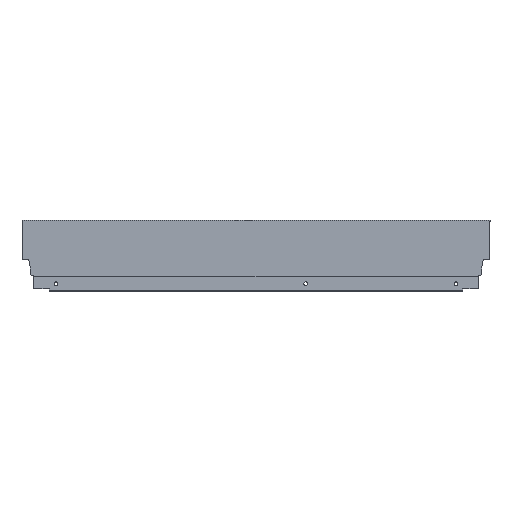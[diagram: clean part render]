
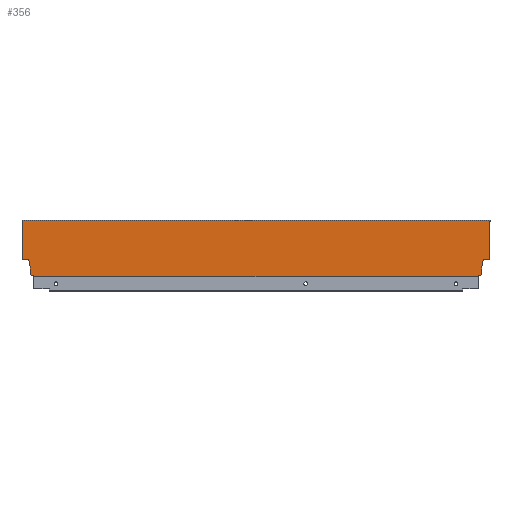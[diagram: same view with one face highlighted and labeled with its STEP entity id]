
A CAD part, top view. The second image highlights one B-rep face of the part: STEP entity #356.
In plain terms, the highlighted planar face has unit normal (0, 0, 1).
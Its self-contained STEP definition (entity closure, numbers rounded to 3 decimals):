
#1 = VERTEX_POINT ( 'NONE', #5 ) ;
#2 = CARTESIAN_POINT ( 'NONE',  ( -563., 66.5, 7.5 ) ) ;
#5 = CARTESIAN_POINT ( 'NONE',  ( -13.004, 0., 7.5 ) ) ;
#7 = VERTEX_POINT ( 'NONE', #2 ) ;
#10 = VERTEX_POINT ( 'NONE', #140 ) ;
#15 = VERTEX_POINT ( 'NONE', #94 ) ;
#17 = VERTEX_POINT ( 'NONE', #1678 ) ;
#18 = VERTEX_POINT ( 'NONE', #92 ) ;
#19 = VERTEX_POINT ( 'NONE', #587 ) ;
#21 = VERTEX_POINT ( 'NONE', #591 ) ;
#46 = AXIS2_PLACEMENT_3D ( 'NONE', #999, #1005, #1006 ) ;
#92 = CARTESIAN_POINT ( 'NONE',  ( -8.9, 10.765, 7.5 ) ) ;
#94 = CARTESIAN_POINT ( 'NONE',  ( -549.996, 0., 7.5 ) ) ;
#121 = VERTEX_POINT ( 'NONE', #636 ) ;
#122 = VERTEX_POINT ( 'NONE', #638 ) ;
#135 = VERTEX_POINT ( 'NONE', #652 ) ;
#140 = CARTESIAN_POINT ( 'NONE',  ( -554.1, 10.765, 7.5 ) ) ;
#191 = EDGE_CURVE ( 'NONE', #121, #1450, #626, .T. ) ;
#216 = EDGE_CURVE ( 'NONE', #15, #1, #563, .T. ) ;
#217 = EDGE_CURVE ( 'NONE', #10, #1449, #559, .T. ) ;
#218 = EDGE_CURVE ( 'NONE', #1428, #7, #562, .T. ) ;
#220 = EDGE_CURVE ( 'NONE', #1449, #19, #551, .T. ) ;
#221 = EDGE_CURVE ( 'NONE', #1428, #122, #566, .T. ) ;
#222 = EDGE_CURVE ( 'NONE', #122, #17, #556, .T. ) ;
#223 = EDGE_CURVE ( 'NONE', #7, #19, #554, .T. ) ;
#224 = EDGE_CURVE ( 'NONE', #1460, #10, #543, .T. ) ;
#225 = EDGE_CURVE ( 'NONE', #1434, #1460, #548, .T. ) ;
#226 = EDGE_CURVE ( 'NONE', #15, #1434, #546, .T. ) ;
#227 = EDGE_CURVE ( 'NONE', #18, #21, #537, .T. ) ;
#228 = EDGE_CURVE ( 'NONE', #1447, #1, #544, .T. ) ;
#229 = EDGE_CURVE ( 'NONE', #1436, #18, #533, .T. ) ;
#230 = EDGE_CURVE ( 'NONE', #21, #1447, #540, .T. ) ;
#231 = EDGE_CURVE ( 'NONE', #1450, #1436, #538, .T. ) ;
#233 = EDGE_CURVE ( 'NONE', #135, #121, #530, .T. ) ;
#235 = EDGE_CURVE ( 'NONE', #17, #135, #528, .T. ) ;
#356 = ADVANCED_FACE ( 'NONE', ( #1603 ), #996, .T. ) ;
#399 = VECTOR ( 'NONE', #679, 1000. ) ;
#521 = VECTOR ( 'NONE', #775, 1000. ) ;
#525 = VECTOR ( 'NONE', #771, 1000. ) ;
#528 = LINE ( 'NONE', #770, #521 ) ;
#529 = VECTOR ( 'NONE', #767, 1000. ) ;
#530 = LINE ( 'NONE', #768, #525 ) ;
#531 = VECTOR ( 'NONE', #765, 1000. ) ;
#532 = VECTOR ( 'NONE', #763, 1000. ) ;
#533 = LINE ( 'NONE', #762, #532 ) ;
#535 = VECTOR ( 'NONE', #761, 1000. ) ;
#536 = VECTOR ( 'NONE', #759, 1000. ) ;
#537 = LINE ( 'NONE', #758, #536 ) ;
#538 = LINE ( 'NONE', #764, #529 ) ;
#539 = VECTOR ( 'NONE', #757, 1000. ) ;
#540 = LINE ( 'NONE', #760, #531 ) ;
#541 = VECTOR ( 'NONE', #755, 1000. ) ;
#542 = VECTOR ( 'NONE', #753, 1000. ) ;
#543 = LINE ( 'NONE', #752, #542 ) ;
#544 = LINE ( 'NONE', #756, #535 ) ;
#545 = VECTOR ( 'NONE', #751, 1000. ) ;
#546 = LINE ( 'NONE', #754, #539 ) ;
#547 = VECTOR ( 'NONE', #749, 1000. ) ;
#548 = LINE ( 'NONE', #750, #541 ) ;
#549 = VECTOR ( 'NONE', #747, 1000. ) ;
#550 = VECTOR ( 'NONE', #745, 1000. ) ;
#551 = LINE ( 'NONE', #744, #550 ) ;
#554 = LINE ( 'NONE', #748, #545 ) ;
#555 = VECTOR ( 'NONE', #741, 1000. ) ;
#556 = LINE ( 'NONE', #746, #547 ) ;
#557 = VECTOR ( 'NONE', #739, 1000. ) ;
#559 = LINE ( 'NONE', #731, #557 ) ;
#561 = VECTOR ( 'NONE', #737, 1000. ) ;
#562 = LINE ( 'NONE', #738, #555 ) ;
#563 = LINE ( 'NONE', #736, #561 ) ;
#566 = LINE ( 'NONE', #740, #549 ) ;
#587 = CARTESIAN_POINT ( 'NONE',  ( -563., 21.2, 7.5 ) ) ;
#591 = CARTESIAN_POINT ( 'NONE',  ( -8.9, 2.64, 7.5 ) ) ;
#626 = LINE ( 'NONE', #668, #399 ) ;
#636 = CARTESIAN_POINT ( 'NONE',  ( 0., 66.5, 7.5 ) ) ;
#638 = CARTESIAN_POINT ( 'NONE',  ( -564., 68., 7.5 ) ) ;
#652 = CARTESIAN_POINT ( 'NONE',  ( 1., 66.5, 7.5 ) ) ;
#668 = CARTESIAN_POINT ( 'NONE',  ( 0., 0., 7.5 ) ) ;
#679 = DIRECTION ( 'NONE',  ( 0., -1., 0. ) ) ;
#731 = CARTESIAN_POINT ( 'NONE',  ( -555.94, 21.2, 7.5 ) ) ;
#736 = CARTESIAN_POINT ( 'NONE',  ( -563., 0., 7.5 ) ) ;
#737 = DIRECTION ( 'NONE',  ( 1., 0., 0. ) ) ;
#738 = CARTESIAN_POINT ( 'NONE',  ( -564., 66.5, 7.5 ) ) ;
#739 = DIRECTION ( 'NONE',  ( -0.174, 0.985, 0. ) ) ;
#740 = CARTESIAN_POINT ( 'NONE',  ( -564., 66.5, 7.5 ) ) ;
#741 = DIRECTION ( 'NONE',  ( 1., 0., 0. ) ) ;
#744 = CARTESIAN_POINT ( 'NONE',  ( -568., 21.2, 7.5 ) ) ;
#745 = DIRECTION ( 'NONE',  ( -1., 0., 0. ) ) ;
#746 = CARTESIAN_POINT ( 'NONE',  ( -563., 68., 7.5 ) ) ;
#747 = DIRECTION ( 'NONE',  ( 0., 1., 0. ) ) ;
#748 = CARTESIAN_POINT ( 'NONE',  ( -563., 0., 7.5 ) ) ;
#749 = DIRECTION ( 'NONE',  ( 1., 0., 0. ) ) ;
#750 = CARTESIAN_POINT ( 'NONE',  ( -554.1, 2.64, 7.5 ) ) ;
#751 = DIRECTION ( 'NONE',  ( 0., -1., 0. ) ) ;
#752 = CARTESIAN_POINT ( 'NONE',  ( -554.1, 10.765, 7.5 ) ) ;
#753 = DIRECTION ( 'NONE',  ( 0., 1., 0. ) ) ;
#754 = CARTESIAN_POINT ( 'NONE',  ( -549.996, 1.146, 7.5 ) ) ;
#755 = DIRECTION ( 'NONE',  ( -0.94, 0.342, 0. ) ) ;
#756 = CARTESIAN_POINT ( 'NONE',  ( -13.004, 1.146, 7.5 ) ) ;
#757 = DIRECTION ( 'NONE',  ( 0., 1., 0. ) ) ;
#758 = CARTESIAN_POINT ( 'NONE',  ( -8.9, 10.765, 7.5 ) ) ;
#759 = DIRECTION ( 'NONE',  ( 0., -1., 0. ) ) ;
#760 = CARTESIAN_POINT ( 'NONE',  ( -8.9, 2.64, 7.5 ) ) ;
#761 = DIRECTION ( 'NONE',  ( 0., -1., 0. ) ) ;
#762 = CARTESIAN_POINT ( 'NONE',  ( -7.06, 21.2, 7.5 ) ) ;
#763 = DIRECTION ( 'NONE',  ( -0.174, -0.985, 0. ) ) ;
#764 = CARTESIAN_POINT ( 'NONE',  ( 0., 21.2, 7.5 ) ) ;
#765 = DIRECTION ( 'NONE',  ( -0.94, -0.342, 0. ) ) ;
#767 = DIRECTION ( 'NONE',  ( -1., 0., 0. ) ) ;
#768 = CARTESIAN_POINT ( 'NONE',  ( 1., 66.5, 7.5 ) ) ;
#770 = CARTESIAN_POINT ( 'NONE',  ( 1., 68., 7.5 ) ) ;
#771 = DIRECTION ( 'NONE',  ( -1., 0., 0. ) ) ;
#775 = DIRECTION ( 'NONE',  ( 0., -1., 0. ) ) ;
#996 = PLANE ( 'NONE',  #46 ) ;
#999 = CARTESIAN_POINT ( 'NONE',  ( -563., 0., 7.5 ) ) ;
#1005 = DIRECTION ( 'NONE',  ( 0., 0., 1. ) ) ;
#1006 = DIRECTION ( 'NONE',  ( 1., 0., 0. ) ) ;
#1152 = CARTESIAN_POINT ( 'NONE',  ( -564., 66.5, 7.5 ) ) ;
#1155 = CARTESIAN_POINT ( 'NONE',  ( -7.06, 21.2, 7.5 ) ) ;
#1156 = CARTESIAN_POINT ( 'NONE',  ( -549.996, 1.146, 7.5 ) ) ;
#1175 = CARTESIAN_POINT ( 'NONE',  ( -13.004, 1.146, 7.5 ) ) ;
#1177 = CARTESIAN_POINT ( 'NONE',  ( -555.94, 21.2, 7.5 ) ) ;
#1178 = CARTESIAN_POINT ( 'NONE',  ( 0., 21.2, 7.5 ) ) ;
#1188 = CARTESIAN_POINT ( 'NONE',  ( -554.1, 2.64, 7.5 ) ) ;
#1211 = ORIENTED_EDGE ( 'NONE', *, *, #191, .F. ) ;
#1218 = ORIENTED_EDGE ( 'NONE', *, *, #233, .F. ) ;
#1221 = ORIENTED_EDGE ( 'NONE', *, *, #235, .F. ) ;
#1233 = EDGE_LOOP ( 'NONE', ( #1356, #1378, #1377, #1365, #1381, #1380, #1379, #1366, #1367, #1368, #1369, #1370, #1371, #1372, #1373, #1211, #1218, #1221 ) ) ;
#1356 = ORIENTED_EDGE ( 'NONE', *, *, #222, .F. ) ;
#1365 = ORIENTED_EDGE ( 'NONE', *, *, #223, .T. ) ;
#1366 = ORIENTED_EDGE ( 'NONE', *, *, #225, .F. ) ;
#1367 = ORIENTED_EDGE ( 'NONE', *, *, #226, .F. ) ;
#1368 = ORIENTED_EDGE ( 'NONE', *, *, #216, .T. ) ;
#1369 = ORIENTED_EDGE ( 'NONE', *, *, #228, .F. ) ;
#1370 = ORIENTED_EDGE ( 'NONE', *, *, #230, .F. ) ;
#1371 = ORIENTED_EDGE ( 'NONE', *, *, #227, .F. ) ;
#1372 = ORIENTED_EDGE ( 'NONE', *, *, #229, .F. ) ;
#1373 = ORIENTED_EDGE ( 'NONE', *, *, #231, .F. ) ;
#1377 = ORIENTED_EDGE ( 'NONE', *, *, #218, .T. ) ;
#1378 = ORIENTED_EDGE ( 'NONE', *, *, #221, .F. ) ;
#1379 = ORIENTED_EDGE ( 'NONE', *, *, #224, .F. ) ;
#1380 = ORIENTED_EDGE ( 'NONE', *, *, #217, .F. ) ;
#1381 = ORIENTED_EDGE ( 'NONE', *, *, #220, .F. ) ;
#1428 = VERTEX_POINT ( 'NONE', #1152 ) ;
#1434 = VERTEX_POINT ( 'NONE', #1156 ) ;
#1436 = VERTEX_POINT ( 'NONE', #1155 ) ;
#1447 = VERTEX_POINT ( 'NONE', #1175 ) ;
#1449 = VERTEX_POINT ( 'NONE', #1177 ) ;
#1450 = VERTEX_POINT ( 'NONE', #1178 ) ;
#1460 = VERTEX_POINT ( 'NONE', #1188 ) ;
#1603 = FACE_OUTER_BOUND ( 'NONE', #1233, .T. ) ;
#1678 = CARTESIAN_POINT ( 'NONE',  ( 1., 68., 7.5 ) ) ;
